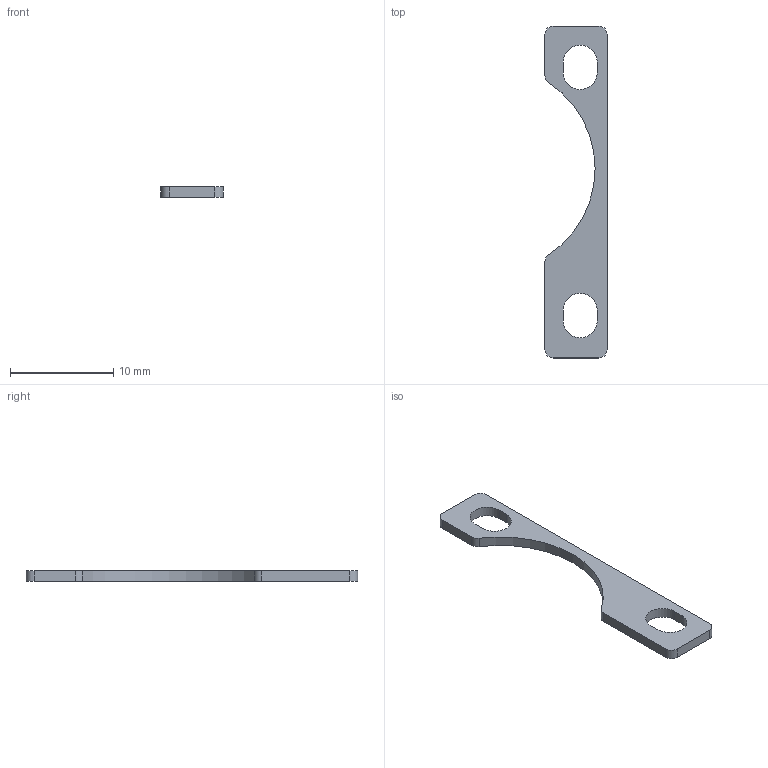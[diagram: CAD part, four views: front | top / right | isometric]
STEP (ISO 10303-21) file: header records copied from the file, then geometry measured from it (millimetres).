
FILE_DESCRIPTION((''),'2;1');
FILE_NAME('J:\Projekte\zws\Gehaeusetechnik ZWS\Gehaeuse F20 Inventor\Montageblech - zws.stp','2011-01-25T12:44:10',('Oliver Liedtke'),(''),'Autodesk Inventor 2009','Autodesk Inventor 2009','');
FILE_SCHEMA(('AUTOMOTIVE_DESIGN { 1 0 10303 214 1 1 1 1 }'));
Length unit declared in the file: millimetre
Products named in the file (1): Montageblech - zws
Bounding box: 6 x 32.1 x 1 mm (x, y, z)
Volume: 109.5 mm3; surface area: 321.8 mm2
Topology: 1 solids, 1 shells, 22 faces, 60 edges, 40 vertices
Faces by surface type: cylinder 11, plane 11
Entity records: 740 total; most frequent: DIRECTION 128, CARTESIAN_POINT 123, ORIENTED_EDGE 120, EDGE_CURVE 60, AXIS2_PLACEMENT_3D 45, VERTEX_POINT 40, VECTOR 38, LINE 38
